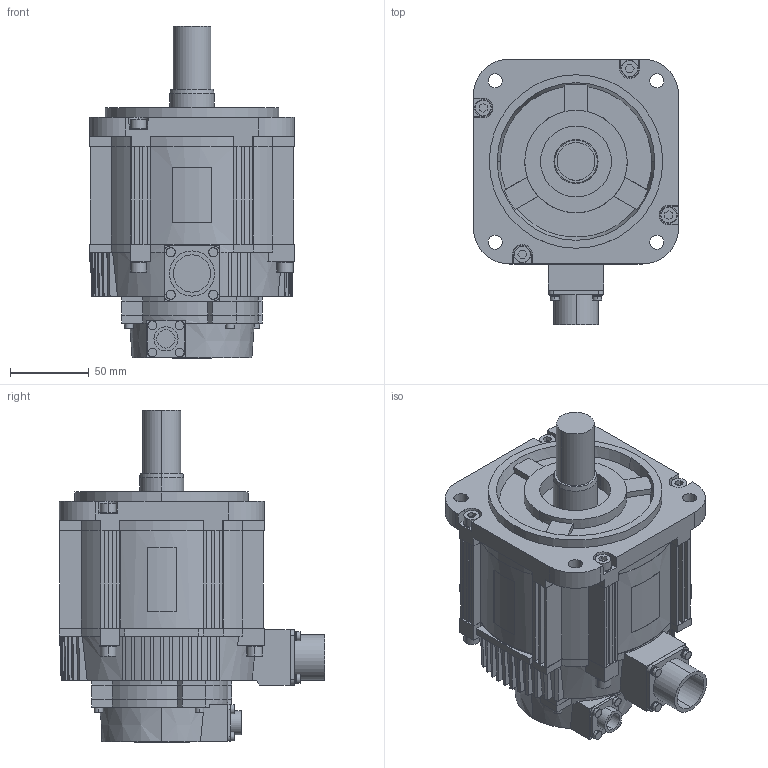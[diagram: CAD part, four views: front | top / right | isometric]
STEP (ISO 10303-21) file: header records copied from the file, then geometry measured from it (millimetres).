
FILE_DESCRIPTION((''),'2;1');
FILE_NAME('SGM7G_13_A21','2013-11-20T',('y-kamei'),('YASKAWA ELECTRIC CORCORATION'),'PRO/ENGINEER BY PARAMETRIC TECHNOLOGY CORPORATION, 2011490','PRO/ENGINEER BY PARAMETRIC TECHNOLOGY CORPORATION, 2011490','');
FILE_SCHEMA(('AUTOMOTIVE_DESIGN { 1 0 10303 214 1 1 1 1 }'));
Length unit declared in the file: millimetre
Products named in the file (1): SGM7G_13_A21
Bounding box: 130 x 168.49 x 210.6 mm (x, y, z)
Volume: 1833614.3 mm3; surface area: 144569.3 mm2
Topology: 1 solids, 1 shells, 801 faces, 2110 edges, 1378 vertices
Faces by surface type: plane 521, cylinder 192, cone 88
Entity records: 34903 total; most frequent: CARTESIAN_POINT 5015, ORIENTED_EDGE 4220, DIRECTION 4164, EDGE_CURVE 2110, FILL_AREA_STYLE_COLOUR 1602, FILL_AREA_STYLE 1602, SURFACE_STYLE_FILL_AREA 1602, SURFACE_SIDE_STYLE 1602
